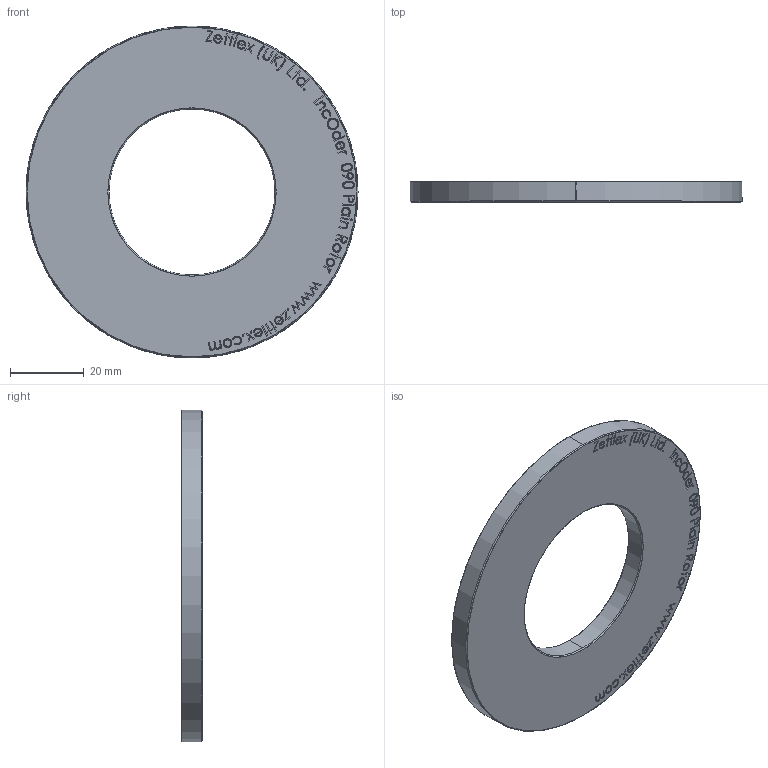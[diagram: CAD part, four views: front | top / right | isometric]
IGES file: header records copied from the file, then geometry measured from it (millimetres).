
Start section: SolidWorks IGES file using analytic representation for surfaces
Global section: file name: C:\Zettlex Data\Mechanical Drawings\1011\090 Plain Rotor Rev 1-5.IGS; native system: SolidWorks 2017; preprocessor: SolidWorks 2017; author: Nigel; date: 170809.104528; units: millimetre
Bounding box: 90 x 5.6 x 90 mm (x, y, z)
Surface area: 11960.4 mm2 (no closed solid volume)
Topology: 0 solids, 0 shells, 607 faces, 7291 edges, 7291 vertices
Faces by surface type: bspline 597, revolution 10
